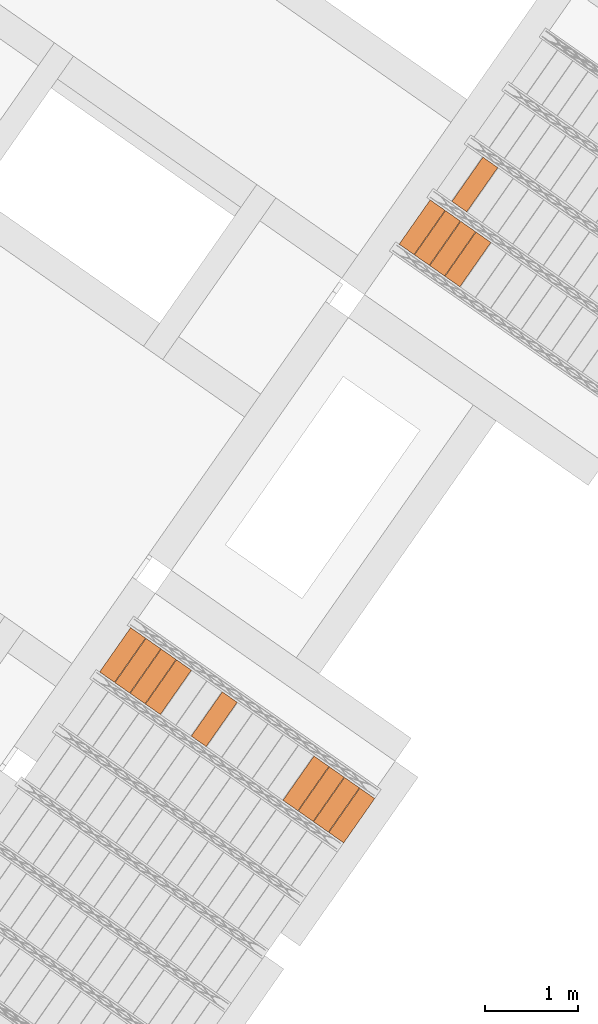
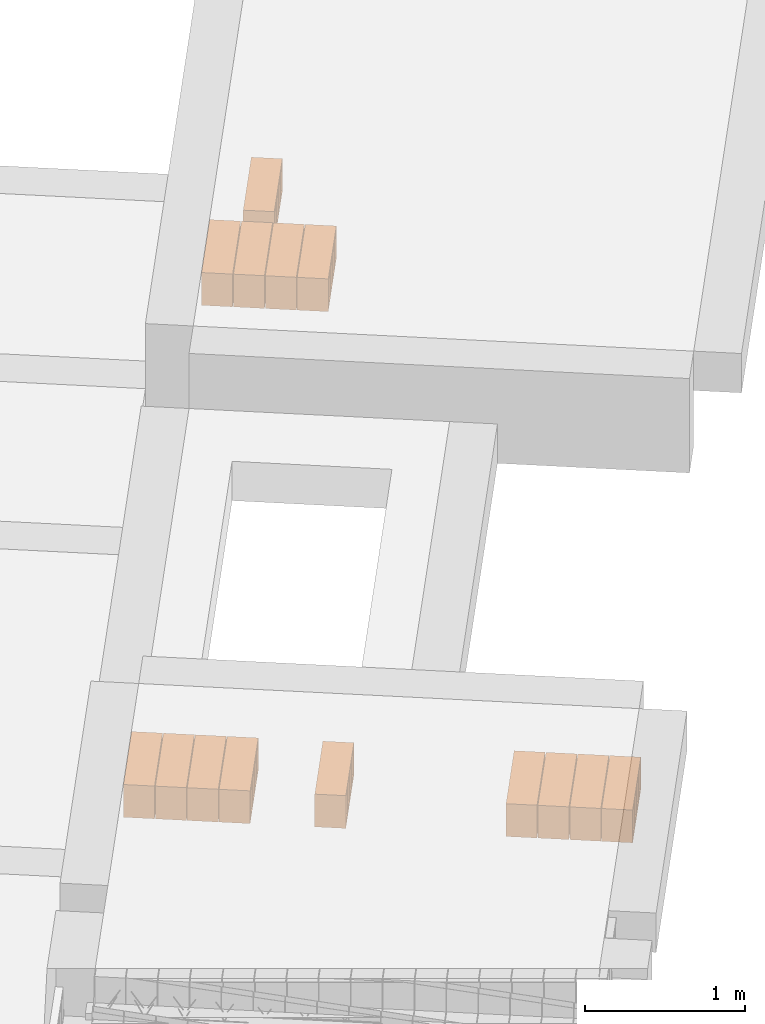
# One storey, part 41 of 46: 14 proxies.
"""IFC2X3 building model written with IfcOpenShell, lengths in metres."""

import ifcopenshell
import ifcopenshell.guid

model = None  # the IFC model being written
_history = None  # IfcOwnerHistory: only IFC2X3 demands one
_inside = {}  # id of a spatial element -> (the spatial element, [elements in it])
_under = {}  # id of a project, library or spatial element -> (it, [spatial elements below it])
_declared = {}  # id of a project -> (the project, [libraries it declares])
_typed = {}  # id of a type object -> (the type object, [elements of that type])
_made_of = {}  # id of a material, layer set ... -> (it, [elements and type objects made of it])


def new_model(schema):
    """Start an empty IFC model of exactly this schema.

    Asked for "IFC4X3", IfcOpenShell would pick the latest addendum, in which some entities
    have other attributes; the version numbers below select the first issue.
    IFC2X3 requires an IfcOwnerHistory on every rooted entity: one is made here for all.
    """
    global model, _history
    if schema == "IFC4X3":
        model = ifcopenshell.file(schema_version=(4, 3, 0, 0))
    else:
        model = ifcopenshell.file(schema=schema)
    _inside.clear()
    _under.clear()
    _declared.clear()
    _typed.clear()
    _made_of.clear()
    _history = None
    if model.schema == "IFC2X3":
        org = make("IfcOrganization", Name="unknown")
        user = make(
            "IfcPersonAndOrganization",
            ThePerson=make("IfcPerson", FamilyName="unknown"),
            TheOrganization=org,
        )
        app = make(
            "IfcApplication",
            ApplicationDeveloper=org,
            Version="unknown",
            ApplicationFullName="unknown",
            ApplicationIdentifier="unknown",
        )
        _history = make(
            "IfcOwnerHistory",
            OwningUser=user,
            OwningApplication=app,
            ChangeAction="ADDED",
            CreationDate=0,
        )
    return model


def make(cls, **values):
    """One entity of the class cls with the attributes given. An attribute that is None is left unset."""
    return model.create_entity(
        cls, **{name: value for name, value in values.items() if value is not None}
    )


def entity(cls, *values):
    """Any entity or typed value of the class cls, its attributes in the order of the schema. None: left unset."""
    e = model.create_entity(cls)
    for i, value in enumerate(values):
        if value is not None:
            e[i] = value
    return e


def rooted(cls, **values):
    """An entity with a GlobalId (a new one), such as an element, a storey or a relation."""
    return make(cls, GlobalId=ifcopenshell.guid.new(), OwnerHistory=_history, **values)


def si_unit(unit_type, name, prefix=None):
    """IfcSIUnit, for example si_unit("LENGTHUNIT", "METRE", prefix="MILLI")."""
    return make("IfcSIUnit", UnitType=unit_type, Prefix=prefix, Name=name)


def converted_unit(unit_type, name, factor, base, dimensions=None, offset=None):
    """IfcConversionBasedUnit, such as the inch: factor (a typed value) times the base unit."""
    return make(
        "IfcConversionBasedUnit"
        if offset is None
        else "IfcConversionBasedUnitWithOffset",
        ConversionOffset=offset,
        Dimensions=None
        if dimensions is None
        else entity("IfcDimensionalExponents", *dimensions),
        UnitType=unit_type,
        Name=name,
        ConversionFactor=make(
            "IfcMeasureWithUnit", ValueComponent=factor, UnitComponent=base
        ),
    )


def derived_unit(unit_type, elements):
    """IfcDerivedUnit: a product of units, each with its exponent."""
    return make(
        "IfcDerivedUnit",
        Elements=[
            make("IfcDerivedUnitElement", Unit=unit, Exponent=power)
            for unit, power in elements
        ],
        UnitType=unit_type,
    )


def assignment(units):
    """IfcUnitAssignment: the units of a project."""
    return None if units is None else make("IfcUnitAssignment", Units=units)


def point(xyz):
    """IfcCartesianPoint."""
    return None if xyz is None else make("IfcCartesianPoint", Coordinates=xyz)


def direction(xyz):
    """IfcDirection."""
    return None if xyz is None else make("IfcDirection", DirectionRatios=xyz)


def frame(location, z_axis=None, x_axis=None):
    """IfcAxis2Placement3D, a coordinate frame: its origin and axes. An axis left out is left unset."""
    return make(
        "IfcAxis2Placement3D",
        Location=point(location),
        Axis=direction(z_axis),
        RefDirection=direction(x_axis),
    )


def origin():
    """The frame at (0, 0, 0) with its axes left unset."""
    return frame((0.0, 0.0, 0.0))


def place(relative_to, where):
    """IfcLocalPlacement: puts the frame where relative to a parent placement (None: the world)."""
    return make(
        "IfcLocalPlacement", PlacementRelTo=relative_to, RelativePlacement=where
    )


def context(
    kind, dimensions, precision=None, world=None, true_north=None, identifier=None
):
    """IfcGeometricRepresentationContext, for example the 3D "Model" context."""
    return make(
        "IfcGeometricRepresentationContext",
        ContextIdentifier=identifier,
        ContextType=kind,
        CoordinateSpaceDimension=dimensions,
        Precision=precision,
        WorldCoordinateSystem=world,
        TrueNorth=true_north,
    )


def subcontext(parent, identifier, kind, view, scale=None):
    """IfcGeometricRepresentationSubContext, for example "Body" below "Model"."""
    return make(
        "IfcGeometricRepresentationSubContext",
        ContextIdentifier=identifier,
        ContextType=kind,
        ParentContext=parent,
        TargetScale=scale,
        TargetView=view,
    )


def project(units=None, contexts=None):
    """IfcProject with its units and contexts."""
    return rooted(
        "IfcProject",
        Name="project",
        RepresentationContexts=contexts,
        UnitsInContext=assignment(units),
    )


def spatial(cls, under=None, at=None, **own):
    """A site, building, storey or space (cls), placed at a placement, below another one or the project."""
    s = rooted(cls, ObjectPlacement=at, **own)
    if under is not None:
        _under.setdefault(under.id(), (under, []))[1].append(s)
    return s


def polyline(points):
    """IfcPolyline through the points."""
    return make("IfcPolyline", Points=[point(p) for p in points])


def outline(outer, holes=None, kind="AREA"):
    """IfcArbitraryClosedProfileDef: a profile drawn as a closed curve; with holes, ...WithVoids."""
    if holes is None:
        return make("IfcArbitraryClosedProfileDef", ProfileType=kind, OuterCurve=outer)
    return make(
        "IfcArbitraryProfileDefWithVoids",
        ProfileType=kind,
        OuterCurve=outer,
        InnerCurves=holes,
    )


def extrude(swept, where, along, depth):
    """IfcExtrudedAreaSolid: the profile swept, set in the frame where, extruded along a direction by depth."""
    return make(
        "IfcExtrudedAreaSolid",
        SweptArea=swept,
        Position=where,
        ExtrudedDirection=direction(along),
        Depth=depth,
    )


def shape(context_of_items, identifier, shape_type, items):
    """IfcShapeRepresentation: the items that make up one representation, for example the "Body"."""
    return make(
        "IfcShapeRepresentation",
        ContextOfItems=context_of_items,
        RepresentationIdentifier=identifier,
        RepresentationType=shape_type,
        Items=items,
    )


def made_of(thing, what):
    """Note that an element or type object is made of a material, layer set ...; save() writes the relation."""
    if what is not None:
        _made_of.setdefault(what.id(), (what, []))[1].append(thing)
    return thing


def type_object(cls, material=None, **own):
    """A type object (cls), such as IfcWallType, which elements share."""
    return made_of(rooted(cls, **own), material)


def element(
    cls,
    number,
    at=None,
    inside=None,
    cuts=None,
    type_object=None,
    material=None,
    context=None,
    identifier="Body",
    shape_type=None,
    held_by="IfcProductDefinitionShape",
    body=None,
    shapes=None,
    **own,
):
    """One element of the class cls, such as IfcWall. Its Tag is "e" and its number.

    at: its placement. inside: the storey or other place that contains it. cuts: it is an
    opening in that element (IfcRelVoidsElement). A single representation is given by context,
    identifier, shape_type and body (its items); several are given by shapes. held_by: the class
    of the entity that holds the representations. save() writes the other relations.
    """
    e = rooted(cls, Tag="e%d" % number, ObjectPlacement=at, **own)
    if body is not None:
        shapes = [shape(context, identifier, shape_type, body)]
    if shapes is not None:
        e.Representation = make(held_by, Representations=shapes)
    if inside is not None:
        _inside.setdefault(inside.id(), (inside, []))[1].append(e)
    if cuts is not None:
        rooted(
            "IfcRelVoidsElement", RelatingBuildingElement=cuts, RelatedOpeningElement=e
        )
    if type_object is not None:
        _typed.setdefault(type_object.id(), (type_object, []))[1].append(e)
    return made_of(e, material)


def aggregate(whole, parts):
    """IfcRelAggregates: a whole, such as a stair, and the parts it consists of."""
    return rooted("IfcRelAggregates", RelatingObject=whole, RelatedObjects=parts)


def save(model, path):
    """Write the relations noted so far, then the file.

    IfcRelAggregates (storeys below a building ...), IfcRelContainedInSpatialStructure (elements
    in a storey), IfcRelDefinesByType, IfcRelAssociatesMaterial and IfcRelDeclares: one each for
    every whole, place, type object, material and project.
    """
    for whole, parts in _under.values():
        aggregate(whole, parts)
    for where, things in _inside.values():
        rooted(
            "IfcRelContainedInSpatialStructure",
            RelatedElements=things,
            RelatingStructure=where,
        )
    for kind, things in _typed.values():
        rooted("IfcRelDefinesByType", RelatedObjects=things, RelatingType=kind)
    for what, things in _made_of.values():
        rooted("IfcRelAssociatesMaterial", RelatedObjects=things, RelatingMaterial=what)
    for by, libraries in _declared.values():
        rooted("IfcRelDeclares", RelatingContext=by, RelatedDefinitions=libraries)
    model.write(path)


model = new_model("IFC2X3")

# Units and contexts
model_context = context("Model", 3, precision=1e-05, world=origin(), true_north=direction((6.123031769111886e-17, 1.0)))
body_context = subcontext(model_context, "Body", "Model", "MODEL_VIEW")
ifc_project = project(units=[si_unit("LENGTHUNIT", "METRE"), si_unit("AREAUNIT", "SQUARE_METRE"), si_unit("VOLUMEUNIT", "CUBIC_METRE"), converted_unit("PLANEANGLEUNIT", "DEGREE", entity("IfcPlaneAngleMeasure", 0.017453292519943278), si_unit("PLANEANGLEUNIT", "RADIAN"), dimensions=[0, 0, 0, 0, 0, 0, 0]), si_unit("MASSUNIT", "GRAM", prefix="KILO"), derived_unit("MASSDENSITYUNIT", [(si_unit("MASSUNIT", "GRAM", prefix="KILO"), 1), (si_unit("LENGTHUNIT", "METRE"), -3)]), derived_unit("IONCONCENTRATIONUNIT", [(si_unit("MASSUNIT", "GRAM", prefix="KILO"), 1), (si_unit("LENGTHUNIT", "METRE"), -3)]), derived_unit("MOMENTOFINERTIAUNIT", [(si_unit("LENGTHUNIT", "METRE"), 4)]), si_unit("TIMEUNIT", "SECOND"), si_unit("FREQUENCYUNIT", "HERTZ"), si_unit("THERMODYNAMICTEMPERATUREUNIT", "DEGREE_CELSIUS"), derived_unit("THERMALTRANSMITTANCEUNIT", [(si_unit("MASSUNIT", "GRAM", prefix="KILO"), 1), (si_unit("THERMODYNAMICTEMPERATUREUNIT", "KELVIN"), -1), (si_unit("TIMEUNIT", "SECOND"), -3)]), derived_unit("THERMALCONDUCTANCEUNIT", [(si_unit("MASSUNIT", "GRAM", prefix="KILO"), 1), (si_unit("THERMODYNAMICTEMPERATUREUNIT", "KELVIN"), -1), (si_unit("TIMEUNIT", "SECOND"), -3), (si_unit("LENGTHUNIT", "METRE"), 1)]), derived_unit("VOLUMETRICFLOWRATEUNIT", [(si_unit("LENGTHUNIT", "METRE", prefix="DECI"), 3), (si_unit("TIMEUNIT", "SECOND"), -1)]), derived_unit("MASSFLOWRATEUNIT", [(si_unit("MASSUNIT", "GRAM", prefix="KILO"), 1), (si_unit("TIMEUNIT", "SECOND"), -1)]), derived_unit("ROTATIONALFREQUENCYUNIT", [(si_unit("TIMEUNIT", "SECOND"), -1)]), si_unit("ELECTRICCURRENTUNIT", "AMPERE"), si_unit("ELECTRICVOLTAGEUNIT", "VOLT"), si_unit("POWERUNIT", "WATT"), si_unit("FORCEUNIT", "NEWTON", prefix="KILO"), si_unit("ILLUMINANCEUNIT", "LUX"), si_unit("LUMINOUSFLUXUNIT", "LUMEN"), si_unit("LUMINOUSINTENSITYUNIT", "CANDELA"), si_unit("ENERGYUNIT", "JOULE"), derived_unit("USERDEFINED", [(si_unit("MASSUNIT", "GRAM", prefix="KILO"), -1), (si_unit("LENGTHUNIT", "METRE"), -2), (si_unit("TIMEUNIT", "SECOND"), 3), (si_unit("LUMINOUSFLUXUNIT", "LUMEN"), 1)]), derived_unit("USERDEFINED", [(si_unit("MASSUNIT", "GRAM", prefix="KILO"), 1), (si_unit("TIMEUNIT", "SECOND"), -3), (si_unit("LENGTHUNIT", "METRE"), 3), (si_unit("ELECTRICCURRENTUNIT", "AMPERE"), -2)]), derived_unit("SOUNDPOWERUNIT", [(si_unit("MASSUNIT", "GRAM", prefix="KILO"), 1), (si_unit("TIMEUNIT", "SECOND"), -3), (si_unit("LENGTHUNIT", "METRE"), 2)]), derived_unit("SOUNDPRESSUREUNIT", [(si_unit("MASSUNIT", "GRAM", prefix="KILO"), 1), (si_unit("LENGTHUNIT", "METRE"), -1), (si_unit("TIMEUNIT", "SECOND"), -2)]), derived_unit("LINEARVELOCITYUNIT", [(si_unit("LENGTHUNIT", "METRE"), 1), (si_unit("TIMEUNIT", "SECOND"), -1)]), si_unit("PRESSUREUNIT", "PASCAL"), derived_unit("USERDEFINED", [(si_unit("MASSUNIT", "GRAM", prefix="KILO"), 1), (si_unit("LENGTHUNIT", "METRE"), -2), (si_unit("TIMEUNIT", "SECOND"), -2)]), derived_unit("LINEARFORCEUNIT", [(si_unit("MASSUNIT", "GRAM", prefix="KILO"), 1), (si_unit("TIMEUNIT", "SECOND"), -2)]), derived_unit("PLANARFORCEUNIT", [(si_unit("MASSUNIT", "GRAM", prefix="KILO"), 1), (si_unit("LENGTHUNIT", "METRE"), -1), (si_unit("TIMEUNIT", "SECOND"), -2)]), derived_unit("SPECIFICHEATCAPACITYUNIT", [(si_unit("THERMODYNAMICTEMPERATUREUNIT", "KELVIN"), -1), (si_unit("LENGTHUNIT", "METRE"), 2), (si_unit("TIMEUNIT", "SECOND"), -2)]), derived_unit("HEATFLUXDENSITYUNIT", [(si_unit("MASSUNIT", "GRAM", prefix="KILO"), 1), (si_unit("TIMEUNIT", "SECOND"), -3)]), derived_unit("HEATINGVALUEUNIT", [(si_unit("LENGTHUNIT", "METRE"), 2), (si_unit("TIMEUNIT", "SECOND"), -2)]), derived_unit("VAPORPERMEABILITYUNIT", [(si_unit("LENGTHUNIT", "METRE"), -1), (si_unit("TIMEUNIT", "SECOND"), 1)]), derived_unit("DYNAMICVISCOSITYUNIT", [(si_unit("MASSUNIT", "GRAM", prefix="KILO"), 1), (si_unit("TIMEUNIT", "SECOND"), -1), (si_unit("LENGTHUNIT", "METRE"), -1)]), derived_unit("THERMALEXPANSIONCOEFFICIENTUNIT", [(si_unit("THERMODYNAMICTEMPERATUREUNIT", "KELVIN"), -1)]), derived_unit("MODULUSOFELASTICITYUNIT", [(si_unit("MASSUNIT", "GRAM", prefix="KILO"), 1), (si_unit("LENGTHUNIT", "METRE"), -1), (si_unit("TIMEUNIT", "SECOND"), -2)]), derived_unit("ISOTHERMALMOISTURECAPACITYUNIT", [(si_unit("MASSUNIT", "GRAM", prefix="KILO"), -1), (si_unit("LENGTHUNIT", "METRE"), 3)]), derived_unit("MOISTUREDIFFUSIVITYUNIT", [(si_unit("TIMEUNIT", "SECOND"), -1), (si_unit("LENGTHUNIT", "METRE"), 2)]), derived_unit("MASSPERLENGTHUNIT", [(si_unit("MASSUNIT", "GRAM", prefix="KILO"), 1), (si_unit("LENGTHUNIT", "METRE"), -1)]), derived_unit("THERMALRESISTANCEUNIT", [(si_unit("MASSUNIT", "GRAM", prefix="KILO"), -1), (si_unit("TIMEUNIT", "SECOND"), 3), (si_unit("THERMODYNAMICTEMPERATUREUNIT", "KELVIN"), 1)]), derived_unit("ACCELERATIONUNIT", [(si_unit("LENGTHUNIT", "METRE"), 1), (si_unit("TIMEUNIT", "SECOND"), -2)]), derived_unit("ANGULARVELOCITYUNIT", [(si_unit("TIMEUNIT", "SECOND"), -1), (si_unit("PLANEANGLEUNIT", "RADIAN"), 1)]), derived_unit("LINEARSTIFFNESSUNIT", [(si_unit("MASSUNIT", "GRAM", prefix="KILO"), 1), (si_unit("TIMEUNIT", "SECOND"), -2)]), derived_unit("WARPINGCONSTANTUNIT", [(si_unit("LENGTHUNIT", "METRE"), 6)]), derived_unit("LINEARMOMENTUNIT", [(si_unit("MASSUNIT", "GRAM", prefix="KILO"), 1), (si_unit("LENGTHUNIT", "METRE"), 1), (si_unit("TIMEUNIT", "SECOND"), -2)]), derived_unit("TORQUEUNIT", [(si_unit("MASSUNIT", "GRAM", prefix="KILO"), 1), (si_unit("LENGTHUNIT", "METRE"), 2), (si_unit("TIMEUNIT", "SECOND"), -2)])], contexts=[model_context])

# Site, building, storey
site_placement = place(None, origin())
site = spatial("IfcSite", under=ifc_project, at=site_placement, Name="Default", CompositionType="ELEMENT")
building_placement = place(site_placement, origin())
building = spatial("IfcBuilding", under=site, at=building_placement, CompositionType="ELEMENT")
storey_placement = place(building_placement, frame((0.0, 0.0, 99.52000000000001)))
storey = spatial("IfcBuildingStorey", under=building, at=storey_placement, Name="F1", CompositionType="ELEMENT", Elevation=99.52000000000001)

# Proxies
building_element_proxy_type_1 = type_object("IfcBuildingElementProxyType", Name="Bovedilla 1-13 (Paño 3)", PredefinedType="USERDEFINED")
proxy_1_placement = place(storey_placement, origin())
element("IfcBuildingElementProxy", 1, at=proxy_1_placement, inside=storey, type_object=building_element_proxy_type_1, Name="Bovedilla 1-13 (Paño 3)", ObjectType="FORM", context=body_context, shape_type="SweptSolid", body=[
    extrude(outline(polyline([(-0.28999999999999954, -0.12500000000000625), (0.29, -0.12500000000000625), (0.29, 0.12500000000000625), (-0.28999999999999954, 0.12500000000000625), (-0.28999999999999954, -0.12500000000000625)]), holes=[polyline([(0.27000000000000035, -0.10499999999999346), (0.1550000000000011, -0.10499999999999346), (0.1550000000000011, 0.10499999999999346), (0.27000000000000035, 0.10499999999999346), (0.27000000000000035, 0.042499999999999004), (0.27000000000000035, -0.10499999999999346)]), polyline([(0.009999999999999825, -0.10499999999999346), (0.009999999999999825, 0.10499999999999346), (0.1349999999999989, 0.10499999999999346), (0.1349999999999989, -0.10499999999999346), (0.009999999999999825, -0.10499999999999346)]), polyline([(-0.1349999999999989, 0.10499999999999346), (-0.009999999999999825, 0.10499999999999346), (-0.009999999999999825, -0.10499999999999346), (-0.1349999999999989, -0.10499999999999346), (-0.1349999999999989, 0.10499999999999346)]), polyline([(-0.26999999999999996, -0.10499999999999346), (-0.26999999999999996, 0.042499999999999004), (-0.26999999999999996, 0.10499999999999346), (-0.1550000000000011, 0.10499999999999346), (-0.1550000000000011, -0.10499999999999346), (-0.26999999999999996, -0.10499999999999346)])]), frame((11.20707662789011, 4.727043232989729, 0.3249999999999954), z_axis=(0.8191520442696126, -0.5735764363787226, 0.0), x_axis=(-0.5735764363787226, -0.8191520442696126, 0.0)), (0.0, 0.0, 1.0), 0.19499999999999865),
])
building_element_proxy_type_2 = type_object("IfcBuildingElementProxyType", Name="Bovedilla 1-14 (Paño 3)", PredefinedType="USERDEFINED")
proxy_2_placement = place(storey_placement, origin())
element("IfcBuildingElementProxy", 2, at=proxy_2_placement, inside=storey, type_object=building_element_proxy_type_2, Name="Bovedilla 1-14 (Paño 3)", ObjectType="FORM", context=body_context, shape_type="SweptSolid", body=[
    extrude(outline(polyline([(-0.28999999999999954, -0.12500000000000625), (0.29, -0.12500000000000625), (0.29, 0.12500000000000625), (-0.28999999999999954, 0.12500000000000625), (-0.28999999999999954, -0.12500000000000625)]), holes=[polyline([(0.27000000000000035, -0.10499999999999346), (0.1550000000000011, -0.10499999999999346), (0.1550000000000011, 0.10499999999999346), (0.27000000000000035, 0.10499999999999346), (0.27000000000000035, 0.042499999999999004), (0.27000000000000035, -0.10499999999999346)]), polyline([(0.009999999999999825, -0.10499999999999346), (0.009999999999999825, 0.10499999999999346), (0.1349999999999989, 0.10499999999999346), (0.1349999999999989, -0.10499999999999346), (0.009999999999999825, -0.10499999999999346)]), polyline([(-0.1349999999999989, 0.10499999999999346), (-0.009999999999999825, 0.10499999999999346), (-0.009999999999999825, -0.10499999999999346), (-0.1349999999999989, -0.10499999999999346), (-0.1349999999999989, 0.10499999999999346)]), polyline([(-0.26999999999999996, -0.10499999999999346), (-0.26999999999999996, 0.042499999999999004), (-0.26999999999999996, 0.10499999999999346), (-0.15500000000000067, 0.10499999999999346), (-0.15500000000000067, -0.10499999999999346), (-0.26999999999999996, -0.10499999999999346)])]), frame((11.043246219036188, 4.841758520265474, 0.3249999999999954), z_axis=(0.8191520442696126, -0.5735764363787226, 0.0), x_axis=(-0.5735764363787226, -0.8191520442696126, 0.0)), (0.0, 0.0, 1.0), 0.19499999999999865),
])
building_element_proxy_type_3 = type_object("IfcBuildingElementProxyType", Name="Bovedilla 1-15 (Paño 3)", PredefinedType="USERDEFINED")
proxy_3_placement = place(storey_placement, origin())
element("IfcBuildingElementProxy", 3, at=proxy_3_placement, inside=storey, type_object=building_element_proxy_type_3, Name="Bovedilla 1-15 (Paño 3)", ObjectType="FORM", context=body_context, shape_type="SweptSolid", body=[
    extrude(outline(polyline([(-0.28999999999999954, -0.12500000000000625), (0.29, -0.12500000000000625), (0.29, 0.12500000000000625), (-0.28999999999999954, 0.12500000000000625), (-0.28999999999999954, -0.12500000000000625)]), holes=[polyline([(0.27000000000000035, -0.10499999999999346), (0.1550000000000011, -0.10499999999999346), (0.1550000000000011, 0.10499999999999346), (0.27000000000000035, 0.10499999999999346), (0.27000000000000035, 0.042499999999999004), (0.27000000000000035, -0.10499999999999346)]), polyline([(0.009999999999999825, -0.10499999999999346), (0.009999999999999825, 0.10499999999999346), (0.1349999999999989, 0.10499999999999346), (0.1349999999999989, -0.10499999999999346), (0.009999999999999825, -0.10499999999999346)]), polyline([(-0.1349999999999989, 0.10499999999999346), (-0.009999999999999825, 0.10499999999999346), (-0.009999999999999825, -0.10499999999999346), (-0.1349999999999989, -0.10499999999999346), (-0.1349999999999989, 0.10499999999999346)]), polyline([(-0.26999999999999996, -0.10499999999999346), (-0.26999999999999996, 0.042499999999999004), (-0.26999999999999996, 0.10499999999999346), (-0.15500000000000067, 0.10499999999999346), (-0.15500000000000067, -0.10499999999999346), (-0.26999999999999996, -0.10499999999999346)])]), frame((10.879415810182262, 4.956473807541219, 0.3249999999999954), z_axis=(0.8191520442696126, -0.5735764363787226, 0.0), x_axis=(-0.5735764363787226, -0.8191520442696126, 0.0)), (0.0, 0.0, 1.0), 0.1950000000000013),
])
building_element_proxy_type_4 = type_object("IfcBuildingElementProxyType", Name="Bovedilla 1-16 (Paño 3)", PredefinedType="USERDEFINED")
proxy_4_placement = place(storey_placement, origin())
element("IfcBuildingElementProxy", 4, at=proxy_4_placement, inside=storey, type_object=building_element_proxy_type_4, Name="Bovedilla 1-16 (Paño 3)", ObjectType="FORM", context=body_context, shape_type="SweptSolid", body=[
    extrude(outline(polyline([(-0.28999999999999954, -0.12500000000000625), (0.29, -0.12500000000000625), (0.29, 0.12500000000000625), (-0.28999999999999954, 0.12500000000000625), (-0.28999999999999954, -0.12500000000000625)]), holes=[polyline([(0.27000000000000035, -0.10499999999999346), (0.15500000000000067, -0.10499999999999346), (0.15500000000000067, 0.10499999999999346), (0.27000000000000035, 0.10499999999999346), (0.27000000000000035, 0.042499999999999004), (0.27000000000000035, -0.10499999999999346)]), polyline([(0.009999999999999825, -0.10499999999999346), (0.009999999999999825, 0.10499999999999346), (0.1349999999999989, 0.10499999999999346), (0.1349999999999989, -0.10499999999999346), (0.009999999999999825, -0.10499999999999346)]), polyline([(-0.1349999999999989, 0.10499999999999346), (-0.009999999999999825, 0.10499999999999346), (-0.009999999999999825, -0.10499999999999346), (-0.1349999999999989, -0.10499999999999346), (-0.1349999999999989, 0.10499999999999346)]), polyline([(-0.26999999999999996, -0.10499999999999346), (-0.26999999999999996, 0.042499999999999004), (-0.26999999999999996, 0.10499999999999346), (-0.15500000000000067, 0.10499999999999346), (-0.15500000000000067, -0.10499999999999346), (-0.26999999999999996, -0.10499999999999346)])]), frame((10.71558540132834, 5.071189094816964, 0.3249999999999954), z_axis=(0.8191520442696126, -0.5735764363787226, 0.0), x_axis=(-0.5735764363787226, -0.8191520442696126, 0.0)), (0.0, 0.0, 1.0), 0.1950000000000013),
])
building_element_proxy_type_5 = type_object("IfcBuildingElementProxyType", Name="Bovedilla 2-15 (Paño 3)", PredefinedType="USERDEFINED")
proxy_5_placement = place(storey_placement, origin())
element("IfcBuildingElementProxy", 5, at=proxy_5_placement, inside=storey, type_object=building_element_proxy_type_5, Name="Bovedilla 2-15 (Paño 3)", ObjectType="FORM", context=body_context, shape_type="SweptSolid", body=[
    extrude(outline(polyline([(-0.28999999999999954, -0.12500000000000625), (0.28999999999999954, -0.12500000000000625), (0.28999999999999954, 0.12500000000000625), (-0.28999999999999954, 0.12500000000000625), (-0.28999999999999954, -0.12500000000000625)]), holes=[polyline([(0.26999999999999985, -0.10499999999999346), (0.15500000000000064, -0.10499999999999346), (0.15500000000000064, 0.10499999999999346), (0.26999999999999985, 0.10499999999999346), (0.26999999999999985, 0.042499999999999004), (0.26999999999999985, -0.10499999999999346)]), polyline([(0.009999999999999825, -0.10499999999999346), (0.009999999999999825, 0.10499999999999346), (0.13499999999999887, 0.10499999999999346), (0.13499999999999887, -0.10499999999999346), (0.009999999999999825, -0.10499999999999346)]), polyline([(-0.13499999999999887, 0.10499999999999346), (-0.009999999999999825, 0.10499999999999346), (-0.009999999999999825, -0.10499999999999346), (-0.13499999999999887, -0.10499999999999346), (-0.13499999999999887, 0.10499999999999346)]), polyline([(-0.26999999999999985, -0.10499999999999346), (-0.26999999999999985, 0.042499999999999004), (-0.26999999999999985, 0.10499999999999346), (-0.15500000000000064, 0.10499999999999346), (-0.15500000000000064, -0.10499999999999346), (-0.26999999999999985, -0.10499999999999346)])]), frame((11.28091931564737, 5.529880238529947, 0.3249999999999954), z_axis=(0.8191520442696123, -0.5735764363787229, 0.0), x_axis=(-0.5735764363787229, -0.8191520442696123, 0.0)), (0.0, 0.0, 1.0), 0.1950000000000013),
])
building_element_proxy_type_6 = type_object("IfcBuildingElementProxyType", Name="Bovedilla 8-1 (Paño 4)", PredefinedType="USERDEFINED")
proxy_6_placement = place(storey_placement, origin())
element("IfcBuildingElementProxy", 6, at=proxy_6_placement, inside=storey, type_object=building_element_proxy_type_6, Name="Bovedilla 8-1 (Paño 4)", ObjectType="FORM", context=body_context, shape_type="SweptSolid", body=[
    extrude(outline(polyline([(-0.29, -0.12500000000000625), (0.29, -0.12500000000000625), (0.29, 0.12500000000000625), (-0.29, 0.12500000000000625), (-0.29, -0.12500000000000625)]), holes=[polyline([(0.27000000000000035, -0.10499999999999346), (0.15500000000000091, -0.10499999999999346), (0.15500000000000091, 0.10499999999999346), (0.27000000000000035, 0.10499999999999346), (0.27000000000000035, 0.042499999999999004), (0.27000000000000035, -0.10499999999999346)]), polyline([(0.009999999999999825, -0.10499999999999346), (0.009999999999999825, 0.10499999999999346), (0.13499999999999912, 0.10499999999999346), (0.13499999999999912, -0.10499999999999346), (0.009999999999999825, -0.10499999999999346)]), polyline([(-0.13499999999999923, 0.10499999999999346), (-0.009999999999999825, 0.10499999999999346), (-0.009999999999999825, -0.10499999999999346), (-0.13499999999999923, -0.10499999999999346), (-0.13499999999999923, 0.10499999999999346)]), polyline([(-0.27000000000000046, -0.10499999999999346), (-0.27000000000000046, 0.042499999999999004), (-0.27000000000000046, 0.10499999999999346), (-0.15500000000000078, 0.10499999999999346), (-0.15500000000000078, -0.10499999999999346), (-0.27000000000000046, -0.10499999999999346)])]), frame((9.961013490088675, -1.2367916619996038, 0.3249999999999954), z_axis=(0.819152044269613, -0.5735764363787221, 0.0), x_axis=(-0.5735764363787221, -0.819152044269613, 0.0)), (0.0, 0.0, 1.0), 0.1950000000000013),
])
building_element_proxy_type_7 = type_object("IfcBuildingElementProxyType", Name="Bovedilla 8-2 (Paño 4)", PredefinedType="USERDEFINED")
proxy_7_placement = place(storey_placement, origin())
element("IfcBuildingElementProxy", 7, at=proxy_7_placement, inside=storey, type_object=building_element_proxy_type_7, Name="Bovedilla 8-2 (Paño 4)", ObjectType="FORM", context=body_context, shape_type="SweptSolid", body=[
    extrude(outline(polyline([(-0.28999999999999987, -0.12500000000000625), (0.28999999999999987, -0.12500000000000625), (0.28999999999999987, 0.12500000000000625), (-0.28999999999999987, 0.12500000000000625), (-0.28999999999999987, -0.12500000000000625)]), holes=[polyline([(0.27000000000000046, -0.10499999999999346), (0.1549999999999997, -0.10499999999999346), (0.1549999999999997, 0.10499999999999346), (0.27000000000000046, 0.10499999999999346), (0.27000000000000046, 0.042499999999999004), (0.27000000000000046, -0.10499999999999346)]), polyline([(0.009999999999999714, -0.10499999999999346), (0.009999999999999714, 0.10499999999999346), (0.13500000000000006, 0.10499999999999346), (0.13500000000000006, -0.10499999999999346), (0.009999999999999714, -0.10499999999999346)]), polyline([(-0.1349999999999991, 0.10499999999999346), (-0.009999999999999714, 0.10499999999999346), (-0.009999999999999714, -0.10499999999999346), (-0.1349999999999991, -0.10499999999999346), (-0.1349999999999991, 0.10499999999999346)]), polyline([(-0.27000000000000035, -0.10499999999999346), (-0.27000000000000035, 0.042499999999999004), (-0.27000000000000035, 0.10499999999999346), (-0.15500000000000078, 0.10499999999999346), (-0.15500000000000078, -0.10499999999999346), (-0.27000000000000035, -0.10499999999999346)])]), frame((9.797183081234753, -1.1220763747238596, 0.3249999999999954), z_axis=(0.8191520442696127, -0.5735764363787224, 0.0), x_axis=(-0.5735764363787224, -0.8191520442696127, 0.0)), (0.0, 0.0, 1.0), 0.1950000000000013),
])
building_element_proxy_type_8 = type_object("IfcBuildingElementProxyType", Name="Bovedilla 8-3 (Paño 4)", PredefinedType="USERDEFINED")
proxy_8_placement = place(storey_placement, origin())
element("IfcBuildingElementProxy", 8, at=proxy_8_placement, inside=storey, type_object=building_element_proxy_type_8, Name="Bovedilla 8-3 (Paño 4)", ObjectType="FORM", context=body_context, shape_type="SweptSolid", body=[
    extrude(outline(polyline([(-0.28999999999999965, -0.12500000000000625), (0.2900000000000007, -0.12500000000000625), (0.2900000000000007, 0.12500000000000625), (-0.28999999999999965, 0.12500000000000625), (-0.28999999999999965, -0.12500000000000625)]), holes=[polyline([(0.27000000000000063, -0.10499999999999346), (0.15500000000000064, -0.10499999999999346), (0.15500000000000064, 0.10499999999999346), (0.27000000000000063, 0.10499999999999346), (0.27000000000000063, 0.042499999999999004), (0.27000000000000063, -0.10499999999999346)]), polyline([(0.010000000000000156, -0.10499999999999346), (0.010000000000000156, 0.10499999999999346), (0.13500000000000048, 0.10499999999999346), (0.13500000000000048, -0.10499999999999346), (0.010000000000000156, -0.10499999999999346)]), polyline([(-0.13499999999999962, 0.10499999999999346), (-0.009999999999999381, 0.10499999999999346), (-0.009999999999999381, -0.10499999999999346), (-0.13499999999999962, -0.10499999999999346), (-0.13499999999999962, 0.10499999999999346)]), polyline([(-0.26999999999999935, -0.10499999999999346), (-0.26999999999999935, 0.042499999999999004), (-0.26999999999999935, 0.10499999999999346), (-0.15499999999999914, 0.10499999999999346), (-0.15499999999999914, -0.10499999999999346), (-0.26999999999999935, -0.10499999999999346)])]), frame((9.633352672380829, -1.0073610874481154, 0.3249999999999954), z_axis=(0.8191520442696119, -0.5735764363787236, 0.0), x_axis=(-0.5735764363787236, -0.8191520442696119, 0.0)), (0.0, 0.0, 1.0), 0.19500000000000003),
])
building_element_proxy_type_9 = type_object("IfcBuildingElementProxyType", Name="Bovedilla 8-4 (Paño 4)", PredefinedType="USERDEFINED")
proxy_9_placement = place(storey_placement, origin())
element("IfcBuildingElementProxy", 9, at=proxy_9_placement, inside=storey, type_object=building_element_proxy_type_9, Name="Bovedilla 8-4 (Paño 4)", ObjectType="FORM", context=body_context, shape_type="SweptSolid", body=[
    extrude(outline(polyline([(-0.28999999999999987, -0.12500000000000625), (0.28999999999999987, -0.12500000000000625), (0.28999999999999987, 0.12500000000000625), (-0.28999999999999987, 0.12500000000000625), (-0.28999999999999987, -0.12500000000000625)]), holes=[polyline([(0.27000000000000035, -0.10499999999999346), (0.1549999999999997, -0.10499999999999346), (0.1549999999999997, 0.10499999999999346), (0.27000000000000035, 0.10499999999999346), (0.27000000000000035, 0.042499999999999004), (0.27000000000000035, -0.10499999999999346)]), polyline([(0.009999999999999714, -0.10499999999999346), (0.009999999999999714, 0.10499999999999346), (0.13500000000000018, 0.10499999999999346), (0.13500000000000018, -0.10499999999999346), (0.009999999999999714, -0.10499999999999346)]), polyline([(-0.13500000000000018, 0.10499999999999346), (-0.009999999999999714, 0.10499999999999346), (-0.009999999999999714, -0.10499999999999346), (-0.13500000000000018, -0.10499999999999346), (-0.13500000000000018, 0.10499999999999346)]), polyline([(-0.27000000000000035, -0.10499999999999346), (-0.27000000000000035, 0.042499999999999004), (-0.27000000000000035, 0.10499999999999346), (-0.1549999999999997, 0.10499999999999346), (-0.1549999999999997, -0.10499999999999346), (-0.27000000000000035, -0.10499999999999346)])]), frame((9.469522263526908, -0.892645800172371, 0.3249999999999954), z_axis=(0.8191520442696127, -0.5735764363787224, 0.0), x_axis=(-0.5735764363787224, -0.8191520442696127, 0.0)), (0.0, 0.0, 1.0), 0.19499999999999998),
])
building_element_proxy_type_10 = type_object("IfcBuildingElementProxyType", Name="Bovedilla 8-10 (Paño 4)", PredefinedType="USERDEFINED")
proxy_10_placement = place(storey_placement, origin())
element("IfcBuildingElementProxy", 10, at=proxy_10_placement, inside=storey, type_object=building_element_proxy_type_10, Name="Bovedilla 8-10 (Paño 4)", ObjectType="FORM", context=body_context, shape_type="SweptSolid", body=[
    extrude(outline(polyline([(-0.2899999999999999, -0.12500000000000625), (0.2899999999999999, -0.12500000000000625), (0.2899999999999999, 0.12500000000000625), (-0.2899999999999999, 0.12500000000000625), (-0.2899999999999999, -0.12500000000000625)]), holes=[polyline([(0.2700000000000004, -0.10499999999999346), (0.15499999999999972, -0.10499999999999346), (0.15499999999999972, 0.10499999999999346), (0.2700000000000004, 0.10499999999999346), (0.2700000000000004, 0.042499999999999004), (0.2700000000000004, -0.10499999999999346)]), polyline([(0.009999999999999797, -0.10499999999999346), (0.009999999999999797, 0.10499999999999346), (0.13500000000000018, 0.10499999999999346), (0.13500000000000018, -0.10499999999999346), (0.009999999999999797, -0.10499999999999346)]), polyline([(-0.1350000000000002, 0.10499999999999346), (-0.00999999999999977, 0.10499999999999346), (-0.009999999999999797, -0.10499999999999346), (-0.1350000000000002, -0.10499999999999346), (-0.1350000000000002, 0.10499999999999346)]), polyline([(-0.2700000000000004, -0.10499999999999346), (-0.2700000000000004, 0.042499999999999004), (-0.2700000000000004, 0.10499999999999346), (-0.15499999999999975, 0.10499999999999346), (-0.15499999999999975, -0.10499999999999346), (-0.2700000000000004, -0.10499999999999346)])]), frame((8.486539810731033, -0.2043540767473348, 0.3249999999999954), z_axis=(0.8191520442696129, -0.5735764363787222, 0.0), x_axis=(-0.5735764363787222, -0.8191520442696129, 0.0)), (0.0, 0.0, 1.0), 0.19499999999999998),
])
building_element_proxy_type_11 = type_object("IfcBuildingElementProxyType", Name="Bovedilla 8-13 (Paño 4)", PredefinedType="USERDEFINED")
proxy_11_placement = place(storey_placement, origin())
element("IfcBuildingElementProxy", 11, at=proxy_11_placement, inside=storey, type_object=building_element_proxy_type_11, Name="Bovedilla 8-13 (Paño 4)", ObjectType="FORM", context=body_context, shape_type="SweptSolid", body=[
    extrude(outline(polyline([(-0.2899999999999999, -0.12500000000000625), (0.28999999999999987, -0.12500000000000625), (0.28999999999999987, 0.12500000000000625), (-0.2899999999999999, 0.12500000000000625), (-0.2899999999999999, -0.12500000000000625)]), holes=[polyline([(0.2700000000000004, -0.10499999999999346), (0.15499999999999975, -0.10499999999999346), (0.15499999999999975, 0.10499999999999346), (0.2700000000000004, 0.10499999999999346), (0.2700000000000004, 0.042499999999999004), (0.2700000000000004, -0.10499999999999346)]), polyline([(0.00999999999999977, -0.10499999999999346), (0.00999999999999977, 0.10499999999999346), (0.1350000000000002, 0.10499999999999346), (0.1350000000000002, -0.10499999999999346), (0.00999999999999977, -0.10499999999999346)]), polyline([(-0.1350000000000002, 0.10499999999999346), (-0.009999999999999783, 0.10499999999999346), (-0.009999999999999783, -0.10499999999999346), (-0.1350000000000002, -0.10499999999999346), (-0.1350000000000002, 0.10499999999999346)]), polyline([(-0.2700000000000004, -0.10499999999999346), (-0.2700000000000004, 0.042499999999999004), (-0.2700000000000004, 0.10499999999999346), (-0.15499999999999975, 0.10499999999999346), (-0.15499999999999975, -0.10499999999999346), (-0.2700000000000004, -0.10499999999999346)])]), frame((7.995048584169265, 0.13979178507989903, 0.3249999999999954), z_axis=(0.8191520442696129, -0.5735764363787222, 0.0), x_axis=(-0.5735764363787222, -0.8191520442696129, 0.0)), (0.0, 0.0, 1.0), 0.19499999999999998),
])
building_element_proxy_type_12 = type_object("IfcBuildingElementProxyType", Name="Bovedilla 8-14 (Paño 4)", PredefinedType="USERDEFINED")
proxy_12_placement = place(storey_placement, origin())
element("IfcBuildingElementProxy", 12, at=proxy_12_placement, inside=storey, type_object=building_element_proxy_type_12, Name="Bovedilla 8-14 (Paño 4)", ObjectType="FORM", context=body_context, shape_type="SweptSolid", body=[
    extrude(outline(polyline([(-0.2899999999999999, -0.12500000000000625), (0.2899999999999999, -0.12500000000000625), (0.2899999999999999, 0.12500000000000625), (-0.2899999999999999, 0.12500000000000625), (-0.2899999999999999, -0.12500000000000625)]), holes=[polyline([(0.2700000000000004, -0.10499999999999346), (0.15499999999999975, -0.10499999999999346), (0.15499999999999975, 0.10499999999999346), (0.2700000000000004, 0.10499999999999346), (0.2700000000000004, 0.042499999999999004), (0.2700000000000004, -0.10499999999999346)]), polyline([(0.009999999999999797, -0.10499999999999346), (0.009999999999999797, 0.10499999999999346), (0.1350000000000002, 0.10499999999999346), (0.1350000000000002, -0.10499999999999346), (0.009999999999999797, -0.10499999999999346)]), polyline([(-0.13500000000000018, 0.10499999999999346), (-0.00999999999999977, 0.10499999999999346), (-0.009999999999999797, -0.10499999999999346), (-0.13500000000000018, -0.10499999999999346), (-0.13500000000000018, 0.10499999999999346)]), polyline([(-0.2700000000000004, -0.10499999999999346), (-0.2700000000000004, 0.042499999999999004), (-0.2700000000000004, 0.10499999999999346), (-0.15499999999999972, 0.10499999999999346), (-0.15499999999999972, -0.10499999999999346), (-0.2700000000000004, -0.10499999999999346)])]), frame((7.8312181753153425, 0.2545070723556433, 0.3249999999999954), z_axis=(0.8191520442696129, -0.5735764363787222, 0.0), x_axis=(-0.5735764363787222, -0.8191520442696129, 0.0)), (0.0, 0.0, 1.0), 0.19499999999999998),
])
building_element_proxy_type_13 = type_object("IfcBuildingElementProxyType", Name="Bovedilla 8-15 (Paño 4)", PredefinedType="USERDEFINED")
proxy_13_placement = place(storey_placement, origin())
element("IfcBuildingElementProxy", 13, at=proxy_13_placement, inside=storey, type_object=building_element_proxy_type_13, Name="Bovedilla 8-15 (Paño 4)", ObjectType="FORM", context=body_context, shape_type="SweptSolid", body=[
    extrude(outline(polyline([(-0.2899999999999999, -0.12500000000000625), (0.2899999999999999, -0.12500000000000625), (0.2899999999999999, 0.12500000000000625), (-0.2899999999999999, 0.12500000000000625), (-0.2899999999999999, -0.12500000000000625)]), holes=[polyline([(0.2700000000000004, -0.10499999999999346), (0.15499999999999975, -0.10499999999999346), (0.15499999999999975, 0.10499999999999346), (0.2700000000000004, 0.10499999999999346), (0.2700000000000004, 0.042499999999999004), (0.2700000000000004, -0.10499999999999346)]), polyline([(0.00999999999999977, -0.10499999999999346), (0.00999999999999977, 0.10499999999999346), (0.1350000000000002, 0.10499999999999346), (0.1350000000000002, -0.10499999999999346), (0.00999999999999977, -0.10499999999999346)]), polyline([(-0.13500000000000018, 0.10499999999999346), (-0.00999999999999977, 0.10499999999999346), (-0.00999999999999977, -0.10499999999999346), (-0.13500000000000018, -0.10499999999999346), (-0.13500000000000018, 0.10499999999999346)]), polyline([(-0.2700000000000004, -0.10499999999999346), (-0.2700000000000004, 0.042499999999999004), (-0.2700000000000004, 0.10499999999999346), (-0.15499999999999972, 0.10499999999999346), (-0.15499999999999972, -0.10499999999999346), (-0.2700000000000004, -0.10499999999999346)])]), frame((7.667387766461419, 0.3692223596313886, 0.3249999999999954), z_axis=(0.8191520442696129, -0.5735764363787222, 0.0), x_axis=(-0.5735764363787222, -0.8191520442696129, 0.0)), (0.0, 0.0, 1.0), 0.19499999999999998),
])
building_element_proxy_type_14 = type_object("IfcBuildingElementProxyType", Name="Bovedilla 8-16 (Paño 4)", PredefinedType="USERDEFINED")
proxy_14_placement = place(storey_placement, origin())
element("IfcBuildingElementProxy", 14, at=proxy_14_placement, inside=storey, type_object=building_element_proxy_type_14, Name="Bovedilla 8-16 (Paño 4)", ObjectType="FORM", context=body_context, shape_type="SweptSolid", body=[
    extrude(outline(polyline([(-0.28999999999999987, -0.12500000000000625), (0.2899999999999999, -0.12500000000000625), (0.2899999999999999, 0.12500000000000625), (-0.28999999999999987, 0.12500000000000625), (-0.28999999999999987, -0.12500000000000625)]), holes=[polyline([(0.2700000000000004, -0.10499999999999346), (0.15499999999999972, -0.10499999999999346), (0.15499999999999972, 0.10499999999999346), (0.2700000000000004, 0.10499999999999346), (0.2700000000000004, 0.042499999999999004), (0.2700000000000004, -0.10499999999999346)]), polyline([(0.00999999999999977, -0.10499999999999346), (0.00999999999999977, 0.10499999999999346), (0.13500000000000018, 0.10499999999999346), (0.13500000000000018, -0.10499999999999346), (0.00999999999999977, -0.10499999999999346)]), polyline([(-0.13500000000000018, 0.10499999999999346), (-0.00999999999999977, 0.10499999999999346), (-0.00999999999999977, -0.10499999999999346), (-0.13500000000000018, -0.10499999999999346), (-0.13500000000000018, 0.10499999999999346)]), polyline([(-0.27000000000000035, -0.10499999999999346), (-0.27000000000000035, 0.042499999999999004), (-0.27000000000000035, 0.10499999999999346), (-0.15499999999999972, 0.10499999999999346), (-0.15499999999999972, -0.10499999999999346), (-0.27000000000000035, -0.10499999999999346)])]), frame((7.503557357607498, 0.48393764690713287, 0.3249999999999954), z_axis=(0.8191520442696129, -0.5735764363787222, 0.0), x_axis=(-0.5735764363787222, -0.8191520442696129, 0.0)), (0.0, 0.0, 1.0), 0.19499999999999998),
])

save(model, "model.ifc")
